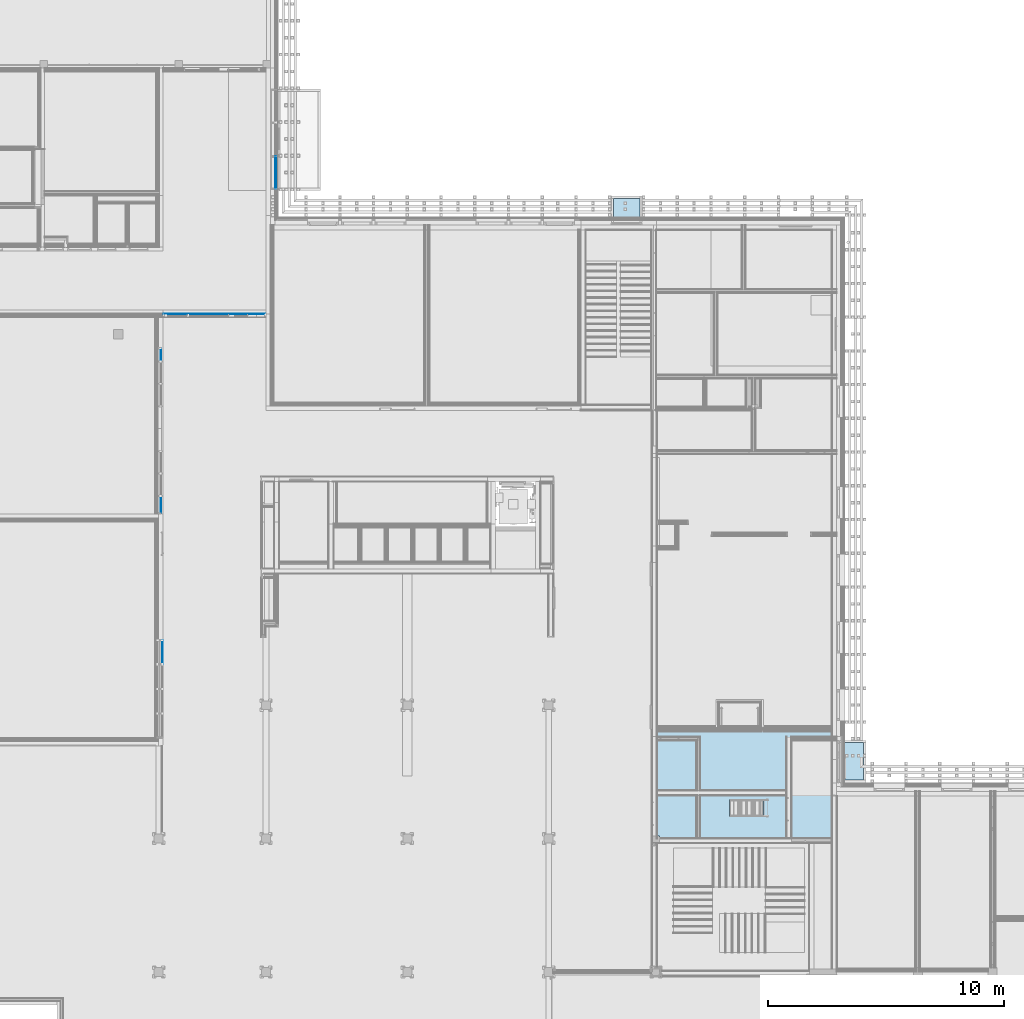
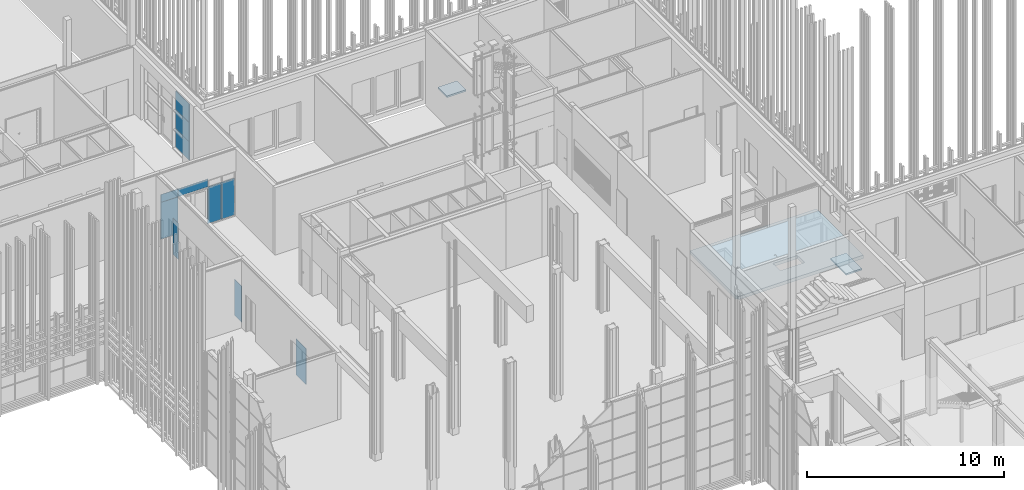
# One storey, part 106 of 260: 11 plates, 3 slabs, 4 elements without a shape of their own.
"""IFC2X3 building model written with IfcOpenShell, lengths in millimetres."""

from ifc_helpers import new_model, entity, si_unit, converted_unit, derived_unit, money_unit, direction, frame, origin_with_axes, place, context, subcontext, project, spatial, faceted_brep, material, type_object, element, aggregate, save


model = new_model("IFC2X3")

# Units and contexts
model_context = context("Model", 3, precision=0.01, world=origin_with_axes(), true_north=direction((0.0, 1.0)))
body_context = subcontext(model_context, "Body", "Model", "MODEL_VIEW")
ifc_project = project(units=[si_unit("LENGTHUNIT", "METRE", prefix="MILLI"), si_unit("AREAUNIT", "SQUARE_METRE"), si_unit("VOLUMEUNIT", "CUBIC_METRE"), converted_unit("PLANEANGLEUNIT", "DEGREE", entity("IfcPlaneAngleMeasure", 0.0174532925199), si_unit("PLANEANGLEUNIT", "RADIAN"), dimensions=[0, 0, 0, 0, 0, 0, 0]), money_unit("EUR"), converted_unit("TIMEUNIT", "Year", entity("IfcTimeMeasure", 31556926.0), si_unit("TIMEUNIT", "SECOND"), dimensions=[0, 0, 1, 0, 0, 0, 0]), si_unit("MASSUNIT", "GRAM", prefix="KILO"), si_unit("THERMODYNAMICTEMPERATUREUNIT", "DEGREE_CELSIUS"), si_unit("LUMINOUSINTENSITYUNIT", "LUMEN"), si_unit("ENERGYUNIT", "JOULE", prefix="MEGA"), derived_unit("THERMALCONDUCTANCEUNIT", [(si_unit("POWERUNIT", "WATT"), 1), (si_unit("LENGTHUNIT", "METRE"), -1), (si_unit("THERMODYNAMICTEMPERATUREUNIT", "KELVIN"), -1)]), derived_unit("SPECIFICHEATCAPACITYUNIT", [(si_unit("ENERGYUNIT", "JOULE"), 1), (si_unit("MASSUNIT", "GRAM", prefix="KILO"), -1), (si_unit("THERMODYNAMICTEMPERATUREUNIT", "KELVIN"), -1)]), derived_unit("MASSDENSITYUNIT", [(si_unit("MASSUNIT", "GRAM", prefix="KILO"), 1), (si_unit("VOLUMEUNIT", "CUBIC_METRE"), -1)])], contexts=[model_context])

# Site, building, storey
site_placement = place(None, origin_with_axes())
site = spatial("IfcSite", under=ifc_project, at=site_placement, Name="Kolde pst 67a", CompositionType="ELEMENT")
building_placement = place(site_placement, origin_with_axes())
building = spatial("IfcBuilding", under=site, at=building_placement, Name="Riigigümnaasium", CompositionType="ELEMENT")
storey_placement = place(building_placement, origin_with_axes())
storey = spatial("IfcBuildingStorey", under=building, at=storey_placement, Name="1. korrus", CompositionType="ELEMENT", Elevation=0.0)

# Slab
ifc_material_1 = material(Name="_KANDETARIND - monoliitne raudbetoon vastavalt EK osale")
slab_type_1 = type_object("IfcSlabType", Name="VL-RBM-20/1_garderoobi tasand 200", PredefinedType="NOTDEFINED")
slab_1_placement = place(storey_placement, frame((52819.9940981, 34540.0000259, 2600.0), z_axis=(0.0, 0.0, 1.0), x_axis=(1.0, 0.0, 0.0)))
element("IfcSlab", 1, at=slab_1_placement, inside=storey, type_object=slab_type_1, material=ifc_material_1, Name="VAHELAGI", PredefinedType="NOTDEFINED", context=body_context, shape_type="Brep", body=[
    faceted_brep([(99.5629647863, 0.0, -200.0), (99.5629647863, 0.0, 0.0), (0.0, 0.0, 0.0), (0.0, 0.0, -200.0), (99.5629647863, -100.000081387, -200.0), (99.5629647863, -100.000081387, 0.0), (7420.00002409, -100.000081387, 0.0), (7420.00002409, 4638.86769086, 0.0), (0.000122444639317, 4638.86769086, 0.0), (3077.1858198, 824.93176381, 0.0), (3077.1858198, 1554.98464697, 0.0), (4507.35083131, 1554.98464697, 0.0), (4507.35083131, 824.93176381, 0.0), (0.000122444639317, 4638.86769086, -200.0), (7420.00002409, 4638.86769086, -200.0), (7420.00002409, -100.000081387, -200.0), (3077.1858198, 824.93176381, -200.0), (4507.35083131, 824.93176381, -200.0), (4507.35083131, 1554.98464697, -200.0), (3077.1858198, 1554.98464697, -200.0)], [[[0, 1, 2, 3]], [[4, 5, 1, 0]], [[2, 1, 5, 6, 7, 8], [9, 10, 11, 12]], [[3, 2, 8, 13]], [[3, 13, 14, 15, 4, 0], [16, 17, 18, 19]], [[15, 6, 5, 4]], [[14, 7, 6, 15]], [[13, 8, 7, 14]], [[19, 10, 9, 16]], [[18, 11, 10, 19]], [[17, 12, 11, 18]], [[16, 9, 12, 17]]]),
])

# Curtain wall, plates
curtain_wall_type = type_object("IfcCurtainWallType", Name="Curtain Wall Type", PredefinedType="NOTDEFINED")
curtain_wall_1_placement = place(storey_placement, frame((36659.99923, 65497.2568144, -5.3341346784e-05), z_axis=(0.0, 0.0, 1.0), x_axis=(1.0, 0.0, 0.0)))
curtain_wall_1 = element("IfcCurtainWall", 2, at=curtain_wall_1_placement, inside=storey, type_object=curtain_wall_type, Name="KLAASFASSAAD")
ifc_material_2 = material(Name="_KLAAS - kirgas")
plate_type_1 = type_object("IfcPlateType", Name="Main Panel 1371 x 1145 x 33", PredefinedType="NOTDEFINED")
plate_1_placement = place(curtain_wall_1_placement, frame((0.0, -2843.14263782, 2950.00014469), z_axis=(0.0, 0.0, 1.0), x_axis=(0.0, 1.0, 0.0)))
plate_1 = element("IfcPlate", 3, at=plate_1_placement, type_object=plate_type_1, material=ifc_material_2, Name="RF PANEEL PEAMINE-021", context=body_context, shape_type="Brep", body=[
    faceted_brep([(-672.919251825, 16.5, 560.000101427), (-672.919251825, -16.5, 560.000101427), (697.919240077, -16.5, 560.000101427), (697.919240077, 16.5, 560.000101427), (-672.919251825, 16.5, -585.000089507), (-672.919251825, -16.5, -585.000089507), (697.919240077, -16.5, -585.000089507), (697.919240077, 16.5, -585.000089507)], [[[0, 1, 2, 3]], [[4, 5, 1, 0]], [[1, 5, 6, 2]], [[3, 2, 6, 7]], [[0, 3, 7, 4]], [[7, 6, 5, 4]]]),
])
plate_2_placement = place(curtain_wall_1_placement, frame((0.0, -2843.14263782, 590.000026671), z_axis=(0.0, 0.0, 1.0), x_axis=(0.0, 1.0, 0.0)))
plate_2 = element("IfcPlate", 4, at=plate_2_placement, type_object=plate_type_1, material=ifc_material_2, Name="RF PANEEL PEAMINE-013", context=body_context, shape_type="Brep", body=[
    faceted_brep([(-672.919251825, 16.5, 585.000028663), (-672.919251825, -16.5, 585.000028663), (697.919240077, -16.5, 585.000028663), (697.919240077, 16.5, 585.000028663), (-672.919251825, 16.5, -560.000036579), (-672.919251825, -16.5, -560.000036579), (697.919240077, -16.5, -560.000036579), (697.919240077, 16.5, -560.000036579)], [[[0, 1, 2, 3]], [[4, 5, 1, 0]], [[1, 5, 6, 2]], [[3, 2, 6, 7]], [[0, 3, 7, 4]], [[7, 6, 5, 4]]]),
])
plate_type_2 = type_object("IfcPlateType", Name="Main Panel 1371 x 1170 x 33", PredefinedType="NOTDEFINED")
plate_3_placement = place(curtain_wall_1_placement, frame((0.0, -2843.14263782, 1770.00005334), z_axis=(0.0, 0.0, 1.0), x_axis=(0.0, 1.0, 0.0)))
plate_3 = element("IfcPlate", 5, at=plate_3_placement, type_object=plate_type_2, material=ifc_material_2, Name="RF PANEEL PEAMINE-017", context=body_context, shape_type="Brep", body=[
    faceted_brep([(-672.919251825, 16.5, 584.999992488), (-672.919251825, -16.5, 584.999992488), (697.919240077, -16.5, 584.999992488), (697.919240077, 16.5, 584.999992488), (-672.919251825, 16.5, -584.99999816), (-672.919251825, -16.5, -584.99999816), (697.919240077, -16.5, -584.99999816), (697.919240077, 16.5, -584.99999816)], [[[0, 1, 2, 3]], [[4, 5, 1, 0]], [[1, 5, 6, 2]], [[3, 2, 6, 7]], [[0, 3, 7, 4]], [[7, 6, 5, 4]]]),
])
aggregate(curtain_wall_1, [plate_1, plate_2, plate_3])

curtain_wall_2_placement = place(storey_placement, frame((31790.0027795, 49434.9164747, -6.11802017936e-05), z_axis=(0.0, 0.0, 1.0), x_axis=(1.0, 0.0, 0.0)))
curtain_wall_2 = element("IfcCurtainWall", 6, at=curtain_wall_2_placement, inside=storey, type_object=curtain_wall_type, Name="KLAASSEIN")
ifc_material_3 = material(Name="_GENEERILINE MATERJAL KLAAS")
plate_type_3 = type_object("IfcPlateType", Name="Distinct Panel 545 x 2240 x 20", PredefinedType="NOTDEFINED")
plate_4_placement = place(curtain_wall_2_placement, frame((0.0, 5514.91634427, 1150.00006753), z_axis=(0.0, 0.0, 1.0), x_axis=(0.0, -1.0, 0.0)))
plate_4 = element("IfcPlate", 7, at=plate_4_placement, type_object=plate_type_3, material=ifc_material_3, Name="RF PANEEL ERI-036", context=body_context, shape_type="Brep", body=[
    faceted_brep([(-259.916342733, -10.0, 1120.0000553), (284.916333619, -10.0, 1120.0000553), (284.916333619, 10.0, 1120.0000553), (-259.916342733, 10.0, 1120.0000553), (-259.916342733, -10.0, -1120.0000553), (284.916333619, -10.0, -1120.0000553), (284.916333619, 10.0, -1120.0000553), (-259.916342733, 10.0, -1120.0000553)], [[[0, 1, 2, 3]], [[0, 4, 5, 1]], [[1, 5, 6, 2]], [[3, 2, 6, 7]], [[4, 0, 3, 7]], [[5, 4, 7, 6]]]),
])
plate_type_4 = type_object("IfcPlateType", Name="Distinct Panel 725 x 2240 x 20", PredefinedType="NOTDEFINED")
plate_5_placement = place(curtain_wall_2_placement, frame((0.0, -854.96795786, 1150.00006753), z_axis=(0.0, 0.0, 1.0), x_axis=(0.0, -1.0, 0.0)))
plate_5 = element("IfcPlate", 8, at=plate_5_placement, type_object=plate_type_4, material=ifc_material_3, Name="RF PANEEL ERI-029", context=body_context, shape_type="Brep", body=[
    faceted_brep([(-374.967955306, -10.0, 1120.00007222), (349.967962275, -10.0, 1120.00007222), (349.967962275, 10.0, 1120.00007222), (-374.967955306, 10.0, 1120.00007222), (-374.967955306, -10.0, -1120.00005508), (349.967962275, -10.0, -1120.00005508), (349.967962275, 10.0, -1120.00005508), (-374.967955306, 10.0, -1120.00005508)], [[[0, 1, 2, 3]], [[0, 4, 5, 1]], [[1, 5, 6, 2]], [[3, 2, 6, 7]], [[4, 0, 3, 7]], [[5, 4, 7, 6]]]),
])
aggregate(curtain_wall_2, [plate_4, plate_5])

curtain_wall_3_placement = place(storey_placement, frame((32274.8343542, 56679.9979478, 0.0), z_axis=(0.0, 0.0, 1.0), x_axis=(1.0, 0.0, 0.0)))
curtain_wall_3 = element("IfcCurtainWall", 9, at=curtain_wall_3_placement, inside=storey, type_object=curtain_wall_type, Name="KLAASSEIN")
plate_type_5 = type_object("IfcPlateType", Name="Distinct Panel 20 x 5 x 20", PredefinedType="NOTDEFINED")
plate_6_placement = place(curtain_wall_3_placement, frame((0.0, 0.0, 1150.0), z_axis=(0.0, 0.0, 1.0), x_axis=(-1.0, 0.0, 0.0)))
plate_6 = element("IfcPlate", 10, at=plate_6_placement, type_object=plate_type_5, material=ifc_material_3, Name="RF PANEEL ERI-040", context=body_context, shape_type="Brep", body=[
    faceted_brep([(-637.166224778, 10.0, 1150.0), (-637.166224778, -10.0, 1150.0), (-617.166217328, -10.0, 1150.0), (-617.166217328, 10.0, 1150.0), (-637.166224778, 10.0, -1150.0), (-637.166224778, -10.0, -1150.0), (-617.166217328, -10.0, -1150.0), (-617.166217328, -10.0, -1129.99999255), (232.334660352, -10.0, -1129.99999255), (364.831526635, -10.0, -1129.99999255), (364.831526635, -10.0, 1144.99998957), (232.334660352, -10.0, 1144.99998957), (-617.166217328, -10.0, 1144.99998957), (-617.166217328, 10.0, 1144.99998957), (232.334660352, 10.0, 1144.99998957), (364.831526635, 10.0, 1144.99998957), (364.831526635, 10.0, -1129.99999255), (232.334660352, 10.0, -1129.99999255), (-617.166217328, 10.0, -1129.99999255), (-617.166217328, 10.0, -1150.0)], [[[0, 1, 2, 3]], [[4, 5, 1, 0]], [[1, 5, 6, 7, 8, 9, 10, 11, 12, 2]], [[3, 2, 12, 13]], [[0, 3, 13, 14, 15, 16, 17, 18, 19, 4]], [[19, 6, 5, 4]], [[18, 7, 6, 19]], [[17, 8, 7, 18]], [[16, 9, 8, 17]], [[15, 10, 9, 16]], [[14, 11, 10, 15]], [[13, 12, 11, 14]]]),
])
plate_7_placement = place(curtain_wall_3_placement, frame((2736.36535098, 0.0, 1150.0), z_axis=(0.0, 0.0, 1.0), x_axis=(-1.0, 0.0, 0.0)))
plate_7 = element("IfcPlate", 11, at=plate_7_placement, type_object=plate_type_5, material=ifc_material_3, Name="RF PANEEL ERI-042", context=body_context, shape_type="Brep", body=[
    faceted_brep([(-480.840389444, 10.0, 1150.0), (-480.840389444, -10.0, 1150.0), (-460.840381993, -10.0, 1150.0), (-460.840381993, 10.0, 1150.0), (-480.840389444, 10.0, -1150.0), (-480.840389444, -10.0, -1150.0), (-460.840381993, -10.0, -1150.0), (-460.840381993, -10.0, -1129.99999255), (118.700031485, -10.0, -1129.99999255), (342.140338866, -10.0, -1129.99999255), (342.140338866, -10.0, -1150.0), (362.140346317, -10.0, -1150.0), (362.140346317, -10.0, 1150.0), (342.140338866, -10.0, 1150.0), (342.140338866, -10.0, 1144.99998957), (118.700031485, -10.0, 1144.99998957), (-460.840381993, -10.0, 1144.99998957), (-460.840381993, 10.0, 1144.99998957), (118.700031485, 10.0, 1144.99998957), (342.140338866, 10.0, 1144.99998957), (342.140338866, 10.0, 1150.0), (362.140346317, 10.0, 1150.0), (362.140346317, 10.0, -1150.0), (342.140338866, 10.0, -1150.0), (342.140338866, 10.0, -1129.99999255), (118.700031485, 10.0, -1129.99999255), (-460.840381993, 10.0, -1129.99999255), (-460.840381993, 10.0, -1150.0)], [[[0, 1, 2, 3]], [[4, 5, 1, 0]], [[1, 5, 6, 7, 8, 9, 10, 11, 12, 13, 14, 15, 16, 2]], [[3, 2, 16, 17]], [[0, 3, 17, 18, 19, 20, 21, 22, 23, 24, 25, 26, 27, 4]], [[27, 6, 5, 4]], [[26, 7, 6, 27]], [[25, 8, 7, 26]], [[24, 9, 8, 25]], [[23, 10, 9, 24]], [[22, 11, 10, 23]], [[21, 12, 11, 22]], [[20, 13, 12, 21]], [[19, 14, 13, 20]], [[18, 15, 14, 19]], [[17, 16, 15, 18]]]),
])
plate_type_6 = type_object("IfcPlateType", Name="Distinct Panel 20 x 2300 x 20", PredefinedType="NOTDEFINED")
plate_8_placement = place(curtain_wall_3_placement, frame((3576.67863768, 0.0, 1150.0), z_axis=(0.0, 0.0, 1.0), x_axis=(-1.0, 0.0, 0.0)))
plate_8 = element("IfcPlate", 12, at=plate_8_placement, type_object=plate_type_6, material=ifc_material_3, Name="RF PANEEL ERI-046", context=body_context, shape_type="Brep", body=[
    faceted_brep([(379.472904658, 10.0, 1150.0), (379.472904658, -10.0, 1150.0), (399.472912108, -10.0, 1150.0), (399.472912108, 10.0, 1150.0), (379.472904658, 10.0, 1144.99998957), (379.472904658, -10.0, 1144.99998957), (9.01332409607, -10.0, 1144.99998957), (-368.48624675, -10.0, 1144.99998957), (-368.48624675, -10.0, -1129.99999255), (9.01332409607, -10.0, -1129.99999255), (379.472904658, -10.0, -1129.99999255), (379.472904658, -10.0, -1150.0), (399.472912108, -10.0, -1150.0), (399.472912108, 10.0, -1150.0), (379.472904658, 10.0, -1150.0), (379.472904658, 10.0, -1129.99999255), (9.01332409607, 10.0, -1129.99999255), (-368.48624675, 10.0, -1129.99999255), (-368.48624675, 10.0, 1144.99998957), (9.01332409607, 10.0, 1144.99998957)], [[[0, 1, 2, 3]], [[4, 5, 1, 0]], [[1, 5, 6, 7, 8, 9, 10, 11, 12, 2]], [[3, 2, 12, 13]], [[0, 3, 13, 14, 15, 16, 17, 18, 19, 4]], [[19, 6, 5, 4]], [[18, 7, 6, 19]], [[17, 8, 7, 18]], [[16, 9, 8, 17]], [[15, 10, 9, 16]], [[14, 11, 10, 15]], [[13, 12, 11, 14]]]),
])
plate_type_7 = type_object("IfcPlateType", Name="Distinct Panel 20 x 20 x 20", PredefinedType="NOTDEFINED")
plate_9_placement = place(curtain_wall_3_placement, frame((1.33802302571e-07, 0.0, 2550.0000456), z_axis=(0.0, 0.0, 1.0), x_axis=(-1.0, 0.0, 0.0)))
plate_9 = element("IfcPlate", 13, at=plate_9_placement, type_object=plate_type_7, material=ifc_material_3, Name="RF PANEEL ERI-049", context=body_context, shape_type="Brep", body=[
    faceted_brep([(-637.166212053, 10.0, 250.000037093), (-637.166212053, -10.0, 250.000037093), (-617.166212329, -10.0, 250.000037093), (-617.166212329, 10.0, 250.000037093), (-637.166212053, 10.0, -250.000045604), (-637.166212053, -10.0, -250.000045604), (-617.166212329, -10.0, -250.000045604), (-617.166212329, -10.0, -245.000045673), (232.334679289, -10.0, -245.000045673), (364.8315345, -10.0, -245.000045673), (364.8315345, -10.0, 230.000052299), (232.334679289, -10.0, 230.000052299), (-617.166212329, -10.0, 230.000037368), (-617.166212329, 10.0, 230.000037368), (232.334679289, 10.0, 230.000052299), (364.8315345, 10.0, 230.000052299), (364.8315345, 10.0, -245.000045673), (232.334679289, 10.0, -245.000045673), (-617.166212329, 10.0, -245.000045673), (-617.166212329, 10.0, -250.000045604)], [[[0, 1, 2, 3]], [[4, 5, 1, 0]], [[1, 5, 6, 7, 8, 9, 10, 11, 12, 2]], [[3, 2, 12, 13]], [[0, 3, 13, 14, 15, 16, 17, 18, 19, 4]], [[19, 6, 5, 4]], [[18, 7, 6, 19]], [[17, 8, 7, 18]], [[16, 9, 8, 17]], [[15, 10, 9, 16]], [[14, 11, 10, 15]], [[13, 12, 11, 14]]]),
])
plate_10_placement = place(curtain_wall_3_placement, frame((1349.18046483, 0.0, 2550.00004187), z_axis=(0.0, 0.0, 1.0), x_axis=(-1.0, 0.0, 0.0)))
plate_10 = element("IfcPlate", 14, at=plate_10_placement, type_object=plate_type_7, material=ifc_material_3, Name="RF PANEEL ERI-050", context=body_context, shape_type="Brep", body=[
    faceted_brep([(-1065.04453983, 10.0, 250.000039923), (-1065.04453983, -9.99999999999, 250.000039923), (-1045.0445409, -9.99999999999, 250.000039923), (-1045.0445409, 10.0, 250.000039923), (-1065.04453983, 10.0, -250.00004187), (-1065.04453983, -9.99999999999, -250.00004187), (-1045.0445409, -9.99999999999, -250.00004187), (-1045.0445409, -9.99999999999, -245.000021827), (-318.484855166, -9.99999999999, -245.000021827), (631.515135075, -9.99999999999, -245.000021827), (732.014254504, -9.99999999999, -245.000021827), (732.014254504, -9.99999999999, -250.00004187), (752.014253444, -9.99999999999, -250.00004187), (752.014253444, -9.99999999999, 250.000039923), (732.014254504, -9.99999999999, 250.000039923), (732.014254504, -9.99999999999, 230.000013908), (631.515135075, -9.99999999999, 230.000013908), (-318.484855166, -9.99999999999, 230.000013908), (-1045.0445409, -9.99999999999, 230.000013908), (-1045.0445409, 10.0, 230.000013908), (-318.484855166, 10.0, 230.000013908), (631.515135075, 10.0, 230.000013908), (732.014254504, 10.0, 230.000013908), (732.014254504, 10.0, 250.000039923), (752.014253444, 10.0, 250.000039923), (752.014253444, 10.0, -250.00004187), (732.014254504, 10.0, -250.00004187), (732.014254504, 10.0, -245.000021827), (631.515135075, 10.0, -245.000021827), (-318.484855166, 10.0, -245.000021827), (-1045.0445409, 10.0, -245.000021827), (-1045.0445409, 10.0, -250.00004187)], [[[0, 1, 2, 3]], [[4, 5, 1, 0]], [[1, 5, 6, 7, 8, 9, 10, 11, 12, 13, 14, 15, 16, 17, 18, 2]], [[3, 2, 18, 19]], [[0, 3, 19, 20, 21, 22, 23, 24, 25, 26, 27, 28, 29, 30, 31, 4]], [[31, 6, 5, 4]], [[30, 7, 6, 31]], [[29, 8, 7, 30]], [[28, 9, 8, 29]], [[27, 10, 9, 28]], [[26, 11, 10, 27]], [[25, 12, 11, 26]], [[24, 13, 12, 25]], [[23, 14, 13, 24]], [[22, 15, 14, 23]], [[21, 16, 15, 22]], [[20, 17, 16, 21]], [[19, 18, 17, 20]]]),
])
aggregate(curtain_wall_3, [plate_6, plate_7, plate_8, plate_9, plate_10])

# Curtain wall, plate
curtain_wall_4_placement = place(storey_placement, frame((31858.898599, 40257.4808267, -3.66549283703e-05), z_axis=(0.0, 0.0, 1.0), x_axis=(1.0, 0.0, 0.0)))
curtain_wall_4 = element("IfcCurtainWall", 15, at=curtain_wall_4_placement, inside=storey, type_object=curtain_wall_type, Name="KLAASSEIN")
plate_type_8 = type_object("IfcPlateType", Name="Distinct Panel 1010 x 2240 x 20", PredefinedType="NOTDEFINED")
plate_11_placement = place(curtain_wall_4_placement, frame((0.0, 2090.0, 1150.00010203), z_axis=(0.0, 0.0, 1.0), x_axis=(0.0, -1.0, 0.0)))
plate_11 = element("IfcPlate", 16, at=plate_11_placement, type_object=plate_type_8, material=ifc_material_3, Name="RF PANEEL ERI-029", context=body_context, shape_type="Brep", body=[
    faceted_brep([(-492.500014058, -10.0, 1120.00010533), (517.499989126, -10.0, 1120.00010533), (517.499989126, 10.0, 1120.00010533), (-492.500014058, 10.0, 1120.00010533), (-492.500014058, -10.0, -1120.00010533), (517.499989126, -10.0, -1120.00010533), (517.499989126, 10.0, -1120.00010533), (-492.500014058, 10.0, -1120.00010533)], [[[0, 1, 2, 3]], [[0, 4, 5, 1]], [[1, 5, 6, 2]], [[3, 2, 6, 7]], [[4, 0, 3, 7]], [[5, 4, 7, 6]]]),
])
aggregate(curtain_wall_4, [plate_11])

# Slabs
slab_type_2 = type_object("IfcSlabType", Name="_KANDETARIND - monoliitne raudbetoon vastavalt EK osale 100", PredefinedType="NOTDEFINED")
slab_2_placement = place(storey_placement, frame((60651.3272976, 38499.975519, -202.0), z_axis=(0.0, 0.0, 1.0), x_axis=(1.0, 0.0, 0.0)))
element("IfcSlab", 17, at=slab_2_placement, inside=storey, type_object=slab_type_2, material=ifc_material_1, Name="Porivann, monoliitne raudbetoon vastavalt EK osale", PredefinedType="NOTDEFINED", context=body_context, shape_type="Brep", body=[
    faceted_brep([(0.0, 0.0, 0.0), (0.0, 0.0, -100.0), (0.00851960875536, -1584.80484388, -100.0), (0.00851960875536, -1584.80484388, 0.0), (919.963876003, 0.00494555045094, 0.0), (919.963876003, 0.00494555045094, -100.0), (919.972395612, -1584.79989833, -100.0), (919.972395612, -1584.79989833, 0.0)], [[[0, 1, 2, 3]], [[4, 5, 1, 0]], [[2, 1, 5, 6]], [[3, 2, 6, 7]], [[4, 0, 3, 7]], [[7, 6, 5, 4]]]),
])
slab_3_placement = place(storey_placement, frame((52092.4926394, 61572.8735785, -202.0), z_axis=(0.0, 0.0, 1.0), x_axis=(1.0, 0.0, 0.0)))
element("IfcSlab", 18, at=slab_3_placement, inside=storey, type_object=slab_type_2, material=ifc_material_1, Name="Porivann, monoliitne raudbetoon vastavalt EK osale", PredefinedType="NOTDEFINED", context=body_context, shape_type="Brep", body=[
    faceted_brep([(0.0, 0.0, 0.0), (0.0, 0.0, -100.0), (-1110.00000014, -0.0119342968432, -100.0), (-1110.00000014, -0.0119342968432, 0.0), (0.00986828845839, -917.84210805, 0.0), (0.00986828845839, -917.84210805, -100.0), (-1109.99013185, -917.854042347, -100.0), (-1109.99013185, -917.854042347, 0.0)], [[[0, 1, 2, 3]], [[4, 5, 1, 0]], [[2, 1, 5, 6]], [[3, 2, 6, 7]], [[4, 0, 3, 7]], [[7, 6, 5, 4]]]),
])

save(model, "model.ifc")
